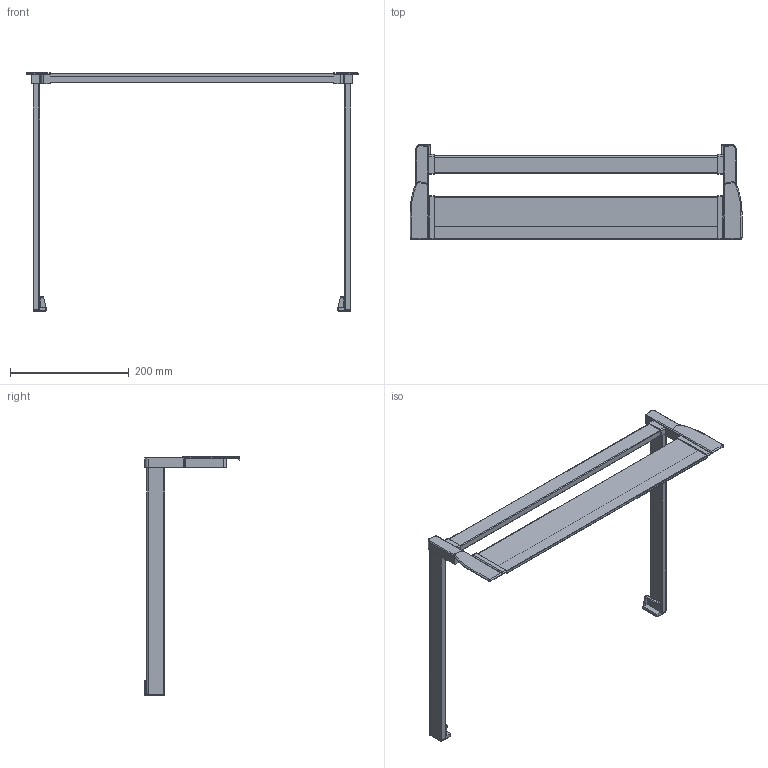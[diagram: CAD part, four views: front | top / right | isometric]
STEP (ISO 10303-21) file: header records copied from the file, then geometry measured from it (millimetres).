
FILE_DESCRIPTION (( 'STEP AP214' ), '1' );
FILE_NAME ('1_P620_NL 400_KAB 600_16er KS_.step', '2009-09-16T06:29:23', ( 'Waldinger Reinhard' ), ( 'Grass GmbH' ), 'SwSTEP 2.0', 'SolidWorks 2009', '' );
FILE_SCHEMA (( 'AUTOMOTIVE_DESIGN' ));
Length unit declared in the file: millimetre
Products named in the file (1): 1_P620_NL 400_KAB 600_16er KS_
Bounding box: 559.6 x 160.5 x 402.8 mm (x, y, z)
Volume: 923063.2 mm3; surface area: 219007.6 mm2
Topology: 1 solids, 1 shells, 220 faces, 578 edges, 364 vertices
Faces by surface type: plane 97, cylinder 91, torus 28, sphere 2, bspline 2
Entity records: 7004 total; most frequent: CARTESIAN_POINT 1345, DIRECTION 1198, ORIENTED_EDGE 1152, EDGE_CURVE 576, AXIS2_PLACEMENT_3D 433, VERTEX_POINT 364, VECTOR 332, LINE 332
